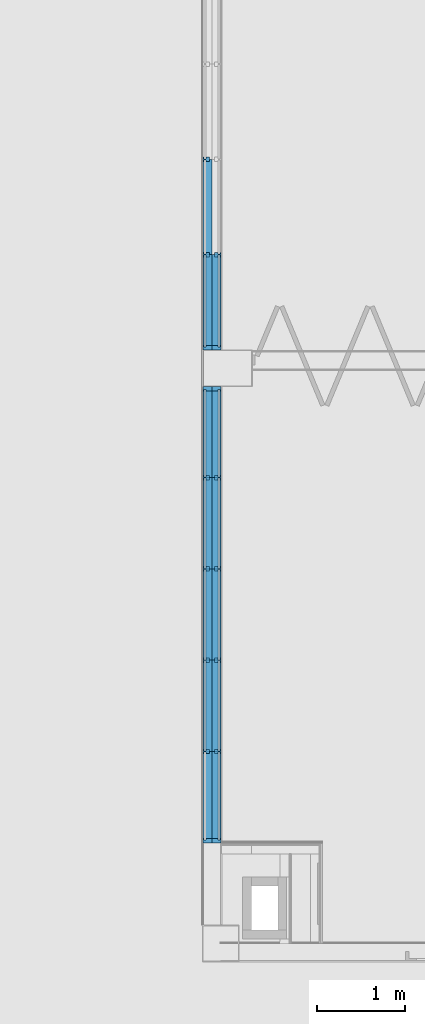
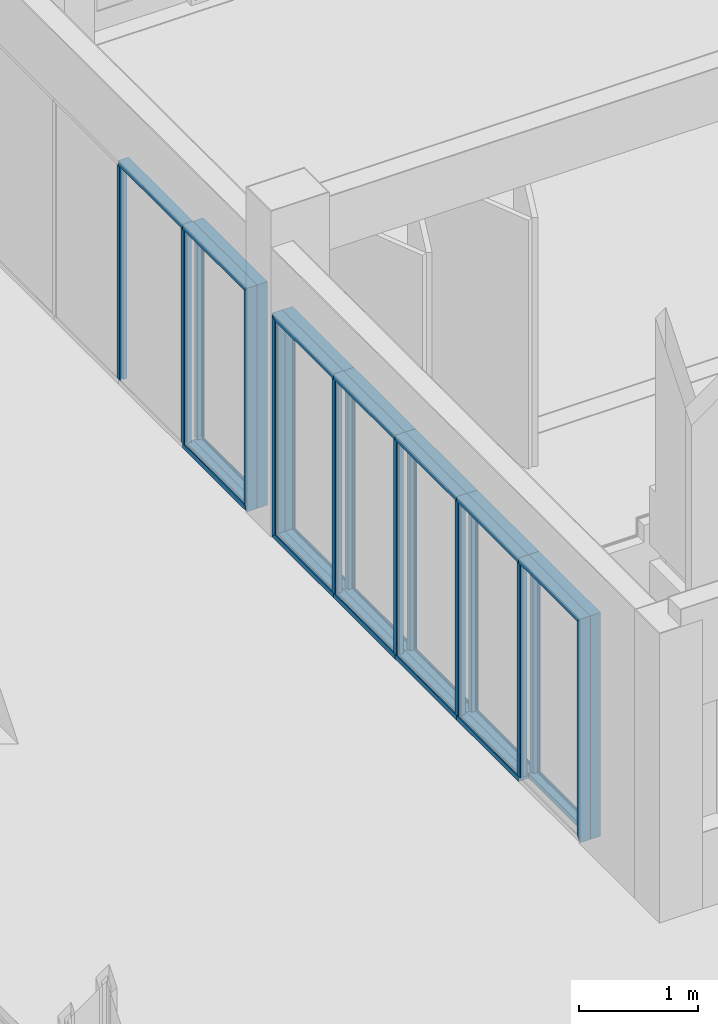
# One storey, part 2 of 139: 41 members, 4 elements without a shape of their own.
"""IFC2X3 building model written with IfcOpenShell, lengths in millimetres."""

from ifc_helpers import new_model, entity, si_unit, converted_unit, derived_unit, money_unit, direction, frame, origin_with_axes, place, context, subcontext, project, spatial, faceted_brep, source, transform, mapped, material, type_object, element, aggregate, save


model = new_model("IFC2X3")

# Units and contexts
model_context = context("Model", 3, precision=0.01, world=origin_with_axes(), true_north=direction((0.0, 1.0)))
body_context = subcontext(model_context, "Body", "Model", "MODEL_VIEW")
ifc_project = project(units=[si_unit("LENGTHUNIT", "METRE", prefix="MILLI"), si_unit("AREAUNIT", "SQUARE_METRE"), si_unit("VOLUMEUNIT", "CUBIC_METRE"), converted_unit("PLANEANGLEUNIT", "DEGREE", entity("IfcPlaneAngleMeasure", 0.0174532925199), si_unit("PLANEANGLEUNIT", "RADIAN"), dimensions=[0, 0, 0, 0, 0, 0, 0]), money_unit("EUR"), converted_unit("TIMEUNIT", "Year", entity("IfcTimeMeasure", 31556926.0), si_unit("TIMEUNIT", "SECOND"), dimensions=[0, 0, 1, 0, 0, 0, 0]), si_unit("MASSUNIT", "GRAM", prefix="KILO"), si_unit("THERMODYNAMICTEMPERATUREUNIT", "DEGREE_CELSIUS"), si_unit("LUMINOUSINTENSITYUNIT", "LUMEN"), si_unit("ENERGYUNIT", "JOULE", prefix="MEGA"), derived_unit("THERMALCONDUCTANCEUNIT", [(si_unit("POWERUNIT", "WATT"), 1), (si_unit("LENGTHUNIT", "METRE"), -1), (si_unit("THERMODYNAMICTEMPERATUREUNIT", "KELVIN"), -1)]), derived_unit("SPECIFICHEATCAPACITYUNIT", [(si_unit("ENERGYUNIT", "JOULE"), 1), (si_unit("MASSUNIT", "GRAM", prefix="KILO"), -1), (si_unit("THERMODYNAMICTEMPERATUREUNIT", "KELVIN"), -1)]), derived_unit("MASSDENSITYUNIT", [(si_unit("MASSUNIT", "GRAM", prefix="KILO"), 1), (si_unit("VOLUMEUNIT", "CUBIC_METRE"), -1)])], contexts=[model_context])

# Site, building, storey
site_placement = place(None, origin_with_axes())
site = spatial("IfcSite", under=ifc_project, at=site_placement, Name="Kolde pst 67a", CompositionType="ELEMENT")
building_placement = place(site_placement, origin_with_axes())
building = spatial("IfcBuilding", under=site, at=building_placement, Name="Riigigümnaasium", CompositionType="ELEMENT")
storey_placement = place(building_placement, frame((0.0, 0.0, 4600.0), z_axis=(0.0, 0.0, 1.0), x_axis=(1.0, 0.0, 0.0)))
storey = spatial("IfcBuildingStorey", under=building, at=storey_placement, Name="2. korrus", CompositionType="ELEMENT", Elevation=4600.0)

# Curtain wall, members
curtain_wall_type = type_object("IfcCurtainWallType", Name="Curtain Wall Type", PredefinedType="NOTDEFINED")
curtain_wall_1_placement = place(storey_placement, frame((58149.9590802, 13604.9614037, -2.92339397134e-05), z_axis=(0.0, 0.0, 1.0), x_axis=(1.0, 0.0, 0.0)))
curtain_wall_1 = element("IfcCurtainWall", 1, at=curtain_wall_1_placement, inside=storey, type_object=curtain_wall_type, Name="KLAASSEIN")
ifc_material = material(Name="_METALL - alumiinium")
member_type_1 = type_object("IfcMemberType", Name="Boundary Frame 50 x 100", PredefinedType="MEMBER")
shared_shape_1 = source(origin_with_axes(), body_context, "Body", "Brep", [
    faceted_brep([(-30.0, -10.0, 1040.0), (-50.0, -10.0, 1040.0), (-50.0, -80.0, 1040.0), (0.0, -80.0, 1040.0), (0.0, 20.0, 1040.0), (-50.0, 20.0, 1040.0), (-50.0, 10.0, 1040.0), (-30.0, 10.0, 1040.0), (-30.0, -10.0, 0.0), (-50.0, -10.0, 0.0), (-50.0, -80.0, 0.0), (0.0, -80.0, 0.0), (0.0, 20.0, 0.0), (-50.0, 20.0, 0.0), (-50.0, 10.0, 0.0), (-30.0, 10.0, 0.0)], [[[0, 1, 2, 3, 4, 5, 6, 7]], [[0, 8, 9, 1]], [[9, 10, 2, 1]], [[10, 11, 3, 2]], [[11, 12, 4, 3]], [[12, 13, 5, 4]], [[6, 5, 13, 14]], [[14, 15, 7, 6]], [[7, 15, 8, 0]], [[8, 15, 14, 13, 12, 11, 10, 9]]]),
])
member_1_placement = place(curtain_wall_1_placement, frame((0.00146719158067, -519.999999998, 0.0), z_axis=(-2.82152227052e-06, 0.999999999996, 0.0), x_axis=(0.0, 0.0, 1.0)))
member_1 = element("IfcMember", 2, at=member_1_placement, type_object=member_type_1, material=ifc_material, Name="RF RAAM SERV-657", ObjectType="MEMBER", context=body_context, shape_type="MappedRepresentation", body=[
    mapped(shared_shape_1, transform((0.0, 0.0, 0.0), x_axis=(-1.0, 0.0, 0.0), y_axis=(0.0, -1.0, 0.0), z_axis=(0.0, 0.0, 1.0))),
])
member_2_placement = place(curtain_wall_1_placement, frame((-0.00146719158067, 519.999999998, 0.0), z_axis=(-2.82152227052e-06, 0.999999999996, 0.0), x_axis=(0.0, 0.0, 1.0)))
member_2 = element("IfcMember", 3, at=member_2_placement, type_object=member_type_1, material=ifc_material, Name="RF RAAM SERV-658", ObjectType="MEMBER", context=body_context, shape_type="MappedRepresentation", body=[
    mapped(shared_shape_1, transform((0.0, 0.0, 0.0), x_axis=(-1.0, 0.0, 0.0), y_axis=(0.0, -1.0, 0.0), z_axis=(0.0, 0.0, 1.0))),
])
member_3_placement = place(curtain_wall_1_placement, frame((-0.00440157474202, 1559.99999999, 0.0), z_axis=(-2.82152227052e-06, 0.999999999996, 0.0), x_axis=(0.0, 0.0, 1.0)))
member_3 = element("IfcMember", 4, at=member_3_placement, type_object=member_type_1, material=ifc_material, Name="RF RAAM SERV-659", ObjectType="MEMBER", context=body_context, shape_type="MappedRepresentation", body=[
    mapped(shared_shape_1, transform((0.0, 0.0, 0.0), x_axis=(-1.0, 0.0, 0.0), y_axis=(0.0, -1.0, 0.0), z_axis=(0.0, 0.0, 1.0))),
])

curtain_wall_2_placement = place(storey_placement, frame((58309.9589479, 13604.961802, -0.000125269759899), z_axis=(0.0, 0.0, 1.0), x_axis=(1.0, 0.0, 0.0)))
curtain_wall_2 = element("IfcCurtainWall", 5, at=curtain_wall_2_placement, inside=storey, type_object=curtain_wall_type, Name="KLAASSEIN")
member_4_placement = place(curtain_wall_2_placement, frame((0.00151128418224, -519.999999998, 2300.00013518), z_axis=(-2.90631573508e-06, 0.999999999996, 0.0), x_axis=(0.0, 0.0, 1.0)))
member_4 = element("IfcMember", 6, at=member_4_placement, type_object=member_type_1, material=ifc_material, Name="RF RAAM SERV-655", ObjectType="MEMBER", context=body_context, shape_type="MappedRepresentation", body=[
    mapped(shared_shape_1, transform((0.0, 0.0, 0.0))),
])
member_5_placement = place(curtain_wall_2_placement, frame((-0.00151128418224, 519.999999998, 2300.00013518), z_axis=(-2.90631572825e-06, 0.999999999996, 0.0), x_axis=(0.0, 0.0, 1.0)))
member_5 = element("IfcMember", 7, at=member_5_placement, type_object=member_type_1, material=ifc_material, Name="RF RAAM SERV-654", ObjectType="MEMBER", context=body_context, shape_type="MappedRepresentation", body=[
    mapped(shared_shape_1, transform((0.0, 0.0, 0.0))),
])
member_6_placement = place(curtain_wall_2_placement, frame((-0.00453385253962, 1559.99999999, 2300.00013518), z_axis=(-2.90631573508e-06, 0.999999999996, 0.0), x_axis=(0.0, 0.0, 1.0)))
member_6 = element("IfcMember", 8, at=member_6_placement, type_object=member_type_1, material=ifc_material, Name="RF RAAM SERV-653", ObjectType="MEMBER", context=body_context, shape_type="MappedRepresentation", body=[
    mapped(shared_shape_1, transform((0.0, 0.0, 0.0))),
])
shared_shape_2 = source(origin_with_axes(), body_context, "Body", "Brep", [
    faceted_brep([(-30.0, -10.0, 1040.0), (-50.0, -10.0, 1040.0), (-50.0, -80.0, 1040.0), (0.0, -80.0, 1040.0), (0.0, 20.0, 1040.0), (-50.0, 20.0, 1040.0), (-50.0, 10.0, 1040.0), (-30.0, 10.0, 1040.0), (-30.0, -10.0, 30.0), (-50.0, -10.0, 50.0), (-50.0, -80.0, 50.0), (0.0, -80.0, 0.0), (0.0, 20.0, 0.0), (-50.0, 20.0, 50.0), (-50.0, 10.0, 50.0), (-30.0, 10.0, 30.0)], [[[0, 1, 2, 3, 4, 5, 6, 7]], [[0, 8, 9, 1]], [[9, 10, 2, 1]], [[2, 10, 11, 3]], [[3, 11, 12, 4]], [[4, 12, 13, 5]], [[6, 5, 13, 14]], [[14, 15, 7, 6]], [[7, 15, 8, 0]], [[8, 15, 14, 13, 12, 11, 10, 9]]]),
])
member_7_placement = place(curtain_wall_2_placement, frame((0.00453385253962, -1559.99999999, 2300.00013518), z_axis=(-2.90631572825e-06, 0.999999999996, 0.0), x_axis=(0.0, 0.0, 1.0)))
member_7 = element("IfcMember", 9, at=member_7_placement, type_object=member_type_1, material=ifc_material, Name="RF RAAM SERV-656", ObjectType="MEMBER", context=body_context, shape_type="MappedRepresentation", body=[
    mapped(shared_shape_2, transform((0.0, 0.0, 0.0))),
])

# Member
shared_shape_3 = source(origin_with_axes(), body_context, "Body", "Brep", [
    faceted_brep([(30.0, -10.0, 2270.0), (30.0, 10.0, 2270.0), (50.0, 10.0, 2250.0), (50.0, 20.0, 2250.0), (0.0, 20.0, 2300.0), (0.0, -80.0, 2300.0), (50.0, -80.0, 2250.0), (50.0, -10.0, 2250.0), (30.0, -10.0, 30.0), (30.0, 10.0, 30.0), (50.0, 10.0, 50.0), (50.0, 20.0, 50.0), (0.0, 20.0, 0.0), (0.0, -80.0, 0.0), (50.0, -80.0, 50.0), (50.0, -10.0, 50.0)], [[[0, 1, 2, 3, 4, 5, 6, 7]], [[1, 0, 8, 9]], [[10, 2, 1, 9]], [[2, 10, 11, 3]], [[4, 3, 11, 12]], [[5, 4, 12, 13]], [[6, 5, 13, 14]], [[15, 7, 6, 14]], [[0, 7, 15, 8]], [[8, 15, 14, 13, 12, 11, 10, 9]]]),
])
member_8_placement = place(curtain_wall_1_placement, frame((0.00440157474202, -1559.99999999, 0.0), z_axis=(0.0, 0.0, 1.0), x_axis=(2.82152227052e-06, -0.999999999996, 0.0)))
member_8 = element("IfcMember", 10, at=member_8_placement, type_object=member_type_1, material=ifc_material, Name="RF RAAM SERV-655", ObjectType="MEMBER", context=body_context, shape_type="MappedRepresentation", body=[
    mapped(shared_shape_3, transform((0.0, 0.0, 0.0), x_axis=(-1.0, 0.0, 0.0), y_axis=(0.0, -1.0, 0.0), z_axis=(0.0, 0.0, 1.0))),
])

# Curtain wall, member
curtain_wall_3_placement = place(storey_placement, frame((58149.948335, 21457.4999721, -5.87247752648e-05), z_axis=(0.0, 0.0, 1.0), x_axis=(1.0, 0.0, 0.0)))
curtain_wall_3 = element("IfcCurtainWall", 11, at=curtain_wall_3_placement, inside=storey, type_object=curtain_wall_type, Name="KLAASSEIN")
member_9_placement = place(curtain_wall_3_placement, frame((1.18417631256e-05, -3797.50006932, 0.0), z_axis=(0.0, 0.0, 1.0), x_axis=(-3.11830664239e-09, 1.0, 0.0)))
member_9 = element("IfcMember", 12, at=member_9_placement, type_object=member_type_1, material=ifc_material, Name="RF RAAM SERV-666", ObjectType="MEMBER", context=body_context, shape_type="MappedRepresentation", body=[
    mapped(shared_shape_3, transform((0.0, 0.0, 0.0))),
])

# Member
member_10_placement = place(curtain_wall_2_placement, frame((-0.0105645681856, 3635.03802182, 0.0), z_axis=(0.0, 0.0, 1.0), x_axis=(2.90631572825e-06, -0.999999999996, 0.0)))
member_10 = element("IfcMember", 13, at=member_10_placement, type_object=member_type_1, material=ifc_material, Name="RF RAAM SERV-651", ObjectType="MEMBER", context=body_context, shape_type="MappedRepresentation", body=[
    mapped(shared_shape_3, transform((0.0, 0.0, 0.0))),
])

member_type_2 = type_object("IfcMemberType", Name="Mullion Frame 50 x 70", PredefinedType="MEMBER")
shared_shape_4 = source(origin_with_axes(), body_context, "Body", "Brep", [
    faceted_brep([(5.0, -10.0, 2250.00004495), (5.0, 10.0, 2250.00004495), (25.0, 10.0, 2250.00004495), (25.0, 20.0, 2250.00004495), (-25.0, 20.0, 2250.00004495), (-25.0, 10.0, 2250.00004495), (-5.0, 10.0, 2250.00004495), (-5.0, -10.0, 2250.00004495), (-25.0, -10.0, 2250.00004495), (-25.0, -50.0, 2250.00004495), (25.0, -50.0, 2250.00004495), (25.0, -10.0, 2250.00004495), (5.0, -10.0, 50.0), (5.0, 10.0, 50.0), (25.0, 10.0, 50.0), (25.0, 20.0, 50.0), (-25.0, 20.0, 50.0), (-25.0, 10.0, 50.0), (-5.0, 10.0, 50.0), (-5.0, -10.0, 50.0), (-25.0, -10.0, 50.0), (-25.0, -50.0, 50.0), (25.0, -50.0, 50.0), (25.0, -10.0, 50.0)], [[[0, 1, 2, 3, 4, 5, 6, 7, 8, 9, 10, 11]], [[0, 12, 13, 1]], [[1, 13, 14, 2]], [[14, 15, 3, 2]], [[4, 3, 15, 16]], [[17, 5, 4, 16]], [[5, 17, 18, 6]], [[7, 6, 18, 19]], [[8, 7, 19, 20]], [[8, 20, 21, 9]], [[10, 9, 21, 22]], [[11, 10, 22, 23]], [[11, 23, 12, 0]], [[13, 12, 23, 22, 21, 20, 19, 18, 17, 16, 15, 14]]]),
])
member_11_placement = place(curtain_wall_1_placement, frame((0.00146719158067, -519.999999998, 0.0), z_axis=(0.0, 0.0, 1.0), x_axis=(2.82152227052e-06, -0.999999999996, 0.0)))
member_11 = element("IfcMember", 14, at=member_11_placement, type_object=member_type_2, material=ifc_material, Name="RF RAAM VERT-268", ObjectType="MEMBER", context=body_context, shape_type="MappedRepresentation", body=[
    mapped(shared_shape_4, transform((0.0, 0.0, 0.0), x_axis=(-1.0, 0.0, 0.0), y_axis=(0.0, -1.0, 0.0), z_axis=(0.0, 0.0, 1.0))),
])

member_12_placement = place(curtain_wall_1_placement, frame((-0.00146719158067, 519.999999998, 0.0), z_axis=(0.0, 0.0, 1.0), x_axis=(2.82152227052e-06, -0.999999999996, 0.0)))
member_12 = element("IfcMember", 15, at=member_12_placement, type_object=member_type_2, material=ifc_material, Name="RF RAAM VERT-269", ObjectType="MEMBER", context=body_context, shape_type="MappedRepresentation", body=[
    mapped(shared_shape_4, transform((0.0, 0.0, 0.0), x_axis=(-1.0, 0.0, 0.0), y_axis=(0.0, -1.0, 0.0), z_axis=(0.0, 0.0, 1.0))),
])

member_13_placement = place(curtain_wall_1_placement, frame((-0.00440157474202, 1559.99999999, 0.0), z_axis=(0.0, 0.0, 1.0), x_axis=(2.82152227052e-06, -0.999999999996, 0.0)))
member_13 = element("IfcMember", 16, at=member_13_placement, type_object=member_type_2, material=ifc_material, Name="RF RAAM VERT-270", ObjectType="MEMBER", context=body_context, shape_type="MappedRepresentation", body=[
    mapped(shared_shape_4, transform((0.0, 0.0, 0.0), x_axis=(-1.0, 0.0, 0.0), y_axis=(0.0, -1.0, 0.0), z_axis=(0.0, 0.0, 1.0))),
])

member_14_placement = place(curtain_wall_1_placement, frame((-0.00733595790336, 2599.99999999, 0.0), z_axis=(0.0, 0.0, 1.0), x_axis=(2.82152227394e-06, -0.999999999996, 0.0)))
member_14 = element("IfcMember", 17, at=member_14_placement, type_object=member_type_2, material=ifc_material, Name="RF RAAM VERT-277", ObjectType="MEMBER", context=body_context, shape_type="MappedRepresentation", body=[
    mapped(shared_shape_4, transform((0.0, 0.0, 0.0), x_axis=(-1.0, 0.0, 0.0), y_axis=(0.0, -1.0, 0.0), z_axis=(0.0, 0.0, 1.0))),
])

# Curtain wall, member
curtain_wall_4_placement = place(storey_placement, frame((58309.948762, 21457.499953, -9.60191526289e-05), z_axis=(0.0, 0.0, 1.0), x_axis=(1.0, 0.0, 0.0)))
curtain_wall_4 = element("IfcCurtainWall", 18, at=curtain_wall_4_placement, inside=storey, type_object=curtain_wall_type, Name="KLAASSEIN")
member_15_placement = place(curtain_wall_4_placement, frame((-0.000296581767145, -2712.5, 0.0), z_axis=(0.0, 0.0, 1.0), x_axis=(1.09338902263e-07, 1.0, 0.0)))
member_15 = element("IfcMember", 19, at=member_15_placement, type_object=member_type_2, material=ifc_material, Name="RF RAAM VERT-317", ObjectType="MEMBER", context=body_context, shape_type="MappedRepresentation", body=[
    mapped(shared_shape_4, transform((0.0, 0.0, 0.0), x_axis=(-1.0, 0.0, 0.0), y_axis=(0.0, -1.0, 0.0), z_axis=(0.0, 0.0, 1.0))),
])

# Member
shared_shape_5 = source(origin_with_axes(), body_context, "Body", "Brep", [
    faceted_brep([(30.0, -10.0, 1040.0), (30.0, 10.0, 1040.0), (50.0, 10.0, 1040.0), (50.0, 20.0, 1040.0), (0.0, 20.0, 1040.0), (0.0, -80.0, 1040.0), (50.0, -80.0, 1040.0), (50.0, -10.0, 1040.0), (30.0, -10.0, 30.0), (30.0, 10.0, 30.0), (50.0, 10.0, 50.0), (50.0, 20.0, 50.0), (0.0, 20.0, 0.0), (0.0, -80.0, 0.0), (50.0, -80.0, 50.0), (50.0, -10.0, 50.0)], [[[0, 1, 2, 3, 4, 5, 6, 7]], [[1, 0, 8, 9]], [[10, 2, 1, 9]], [[2, 10, 11, 3]], [[4, 3, 11, 12]], [[5, 4, 12, 13]], [[6, 5, 13, 14]], [[15, 7, 6, 14]], [[0, 7, 15, 8]], [[8, 15, 14, 13, 12, 11, 10, 9]]]),
])
member_16_placement = place(curtain_wall_1_placement, frame((0.00440157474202, -1559.99999999, 2300.00004495), z_axis=(-2.82152227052e-06, 0.999999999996, 0.0), x_axis=(0.0, 0.0, 1.0)))
member_16 = element("IfcMember", 20, at=member_16_placement, type_object=member_type_1, material=ifc_material, Name="RF RAAM SERV-666", ObjectType="MEMBER", context=body_context, shape_type="MappedRepresentation", body=[
    mapped(shared_shape_5, transform((0.0, 0.0, 0.0), x_axis=(-1.0, 0.0, 0.0), y_axis=(0.0, -1.0, 0.0), z_axis=(0.0, 0.0, 1.0))),
])

member_17_placement = place(curtain_wall_2_placement, frame((0.00453385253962, -1559.99999999, 0.0), z_axis=(-2.90631572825e-06, 0.999999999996, 0.0), x_axis=(0.0, 0.0, 1.0)))
member_17 = element("IfcMember", 21, at=member_17_placement, type_object=member_type_1, material=ifc_material, Name="RF RAAM SERV-646", ObjectType="MEMBER", context=body_context, shape_type="MappedRepresentation", body=[
    mapped(shared_shape_5, transform((0.0, 0.0, 0.0))),
])

shared_shape_6 = source(origin_with_axes(), body_context, "Body", "Brep", [
    faceted_brep([(30.0, -10.0, 1040.0), (30.0, 10.0, 1040.0), (50.0, 10.0, 1040.0), (50.0, 20.0, 1040.0), (0.0, 20.0, 1040.0), (0.0, -80.0, 1040.0), (50.0, -80.0, 1040.0), (50.0, -10.0, 1040.0), (30.0, -10.0, 0.0), (30.0, 10.0, 0.0), (50.0, 10.0, 0.0), (50.0, 20.0, 0.0), (0.0, 20.0, 0.0), (0.0, -80.0, 0.0), (50.0, -80.0, 0.0), (50.0, -10.0, 0.0)], [[[0, 1, 2, 3, 4, 5, 6, 7]], [[1, 0, 8, 9]], [[10, 2, 1, 9]], [[2, 10, 11, 3]], [[12, 4, 3, 11]], [[13, 5, 4, 12]], [[14, 6, 5, 13]], [[15, 7, 6, 14]], [[0, 7, 15, 8]], [[8, 15, 14, 13, 12, 11, 10, 9]]]),
])
member_18_placement = place(curtain_wall_1_placement, frame((0.00146719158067, -519.999999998, 2300.00004495), z_axis=(-2.82152227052e-06, 0.999999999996, 0.0), x_axis=(0.0, 0.0, 1.0)))
member_18 = element("IfcMember", 22, at=member_18_placement, type_object=member_type_1, material=ifc_material, Name="RF RAAM SERV-665", ObjectType="MEMBER", context=body_context, shape_type="MappedRepresentation", body=[
    mapped(shared_shape_6, transform((0.0, 0.0, 0.0), x_axis=(-1.0, 0.0, 0.0), y_axis=(0.0, -1.0, 0.0), z_axis=(0.0, 0.0, 1.0))),
])

member_19_placement = place(curtain_wall_1_placement, frame((-0.00146719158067, 519.999999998, 2300.00004495), z_axis=(-2.82152227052e-06, 0.999999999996, 0.0), x_axis=(0.0, 0.0, 1.0)))
member_19 = element("IfcMember", 23, at=member_19_placement, type_object=member_type_1, material=ifc_material, Name="RF RAAM SERV-664", ObjectType="MEMBER", context=body_context, shape_type="MappedRepresentation", body=[
    mapped(shared_shape_6, transform((0.0, 0.0, 0.0), x_axis=(-1.0, 0.0, 0.0), y_axis=(0.0, -1.0, 0.0), z_axis=(0.0, 0.0, 1.0))),
])

member_20_placement = place(curtain_wall_1_placement, frame((-0.00440157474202, 1559.99999999, 2300.00004495), z_axis=(-2.82152227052e-06, 0.999999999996, 0.0), x_axis=(0.0, 0.0, 1.0)))
member_20 = element("IfcMember", 24, at=member_20_placement, type_object=member_type_1, material=ifc_material, Name="RF RAAM SERV-663", ObjectType="MEMBER", context=body_context, shape_type="MappedRepresentation", body=[
    mapped(shared_shape_6, transform((0.0, 0.0, 0.0), x_axis=(-1.0, 0.0, 0.0), y_axis=(0.0, -1.0, 0.0), z_axis=(0.0, 0.0, 1.0))),
])

member_21_placement = place(curtain_wall_2_placement, frame((0.00151128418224, -519.999999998, 0.0), z_axis=(-2.90631573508e-06, 0.999999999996, 0.0), x_axis=(0.0, 0.0, 1.0)))
member_21 = element("IfcMember", 25, at=member_21_placement, type_object=member_type_1, material=ifc_material, Name="RF RAAM SERV-647", ObjectType="MEMBER", context=body_context, shape_type="MappedRepresentation", body=[
    mapped(shared_shape_6, transform((0.0, 0.0, 0.0))),
])

member_22_placement = place(curtain_wall_2_placement, frame((-0.00151128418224, 519.999999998, 0.0), z_axis=(-2.90631572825e-06, 0.999999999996, 0.0), x_axis=(0.0, 0.0, 1.0)))
member_22 = element("IfcMember", 26, at=member_22_placement, type_object=member_type_1, material=ifc_material, Name="RF RAAM SERV-648", ObjectType="MEMBER", context=body_context, shape_type="MappedRepresentation", body=[
    mapped(shared_shape_6, transform((0.0, 0.0, 0.0))),
])

member_23_placement = place(curtain_wall_2_placement, frame((-0.00453385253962, 1559.99999999, 0.0), z_axis=(-2.90631573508e-06, 0.999999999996, 0.0), x_axis=(0.0, 0.0, 1.0)))
member_23 = element("IfcMember", 27, at=member_23_placement, type_object=member_type_1, material=ifc_material, Name="RF RAAM SERV-649", ObjectType="MEMBER", context=body_context, shape_type="MappedRepresentation", body=[
    mapped(shared_shape_6, transform((0.0, 0.0, 0.0))),
])

shared_shape_7 = source(origin_with_axes(), body_context, "Body", "Brep", [
    faceted_brep([(30.0, -10.0, 1005.03802183), (30.0, 10.0, 1005.03802183), (50.0, 10.0, 985.038021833), (50.0, 20.0, 985.038021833), (0.0, 20.0, 1035.03802183), (0.0, -80.0, 1035.03802183), (50.0, -80.0, 985.038021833), (50.0, -10.0, 985.038021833), (30.0, -10.0, 0.0), (30.0, 10.0, 0.0), (50.0, 10.0, 0.0), (50.0, 20.0, 0.0), (0.0, 20.0, 0.0), (0.0, -80.0, 0.0), (50.0, -80.0, 0.0), (50.0, -10.0, 0.0)], [[[0, 1, 2, 3, 4, 5, 6, 7]], [[1, 0, 8, 9]], [[10, 2, 1, 9]], [[2, 10, 11, 3]], [[12, 4, 3, 11]], [[13, 5, 4, 12]], [[14, 6, 5, 13]], [[15, 7, 6, 14]], [[0, 7, 15, 8]], [[8, 15, 14, 13, 12, 11, 10, 9]]]),
])
member_24_placement = place(curtain_wall_1_placement, frame((-0.00733595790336, 2599.99999999, 2300.00004495), z_axis=(-2.82152227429e-06, 0.999999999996, 0.0), x_axis=(0.0, 0.0, 1.0)))
member_24 = element("IfcMember", 28, at=member_24_placement, type_object=member_type_1, material=ifc_material, Name="RF RAAM SERV-662", ObjectType="MEMBER", context=body_context, shape_type="MappedRepresentation", body=[
    mapped(shared_shape_7, transform((0.0, 0.0, 0.0), x_axis=(-1.0, 0.0, 0.0), y_axis=(0.0, -1.0, 0.0), z_axis=(0.0, 0.0, 1.0))),
])

member_25_placement = place(curtain_wall_2_placement, frame((-0.00755642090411, 2599.99999999, 0.0), z_axis=(-2.90631572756e-06, 0.999999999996, 0.0), x_axis=(0.0, 0.0, 1.0)))
member_25 = element("IfcMember", 29, at=member_25_placement, type_object=member_type_1, material=ifc_material, Name="RF RAAM SERV-650", ObjectType="MEMBER", context=body_context, shape_type="MappedRepresentation", body=[
    mapped(shared_shape_7, transform((0.0, 0.0, 0.0))),
])

shared_shape_8 = source(origin_with_axes(), body_context, "Body", "Brep", [
    faceted_brep([(-30.0, -10.0, 2270.00004495), (-50.0, -10.0, 2250.00004495), (-50.0, -80.0, 2250.00004495), (0.0, -80.0, 2300.00004495), (0.0, 20.0, 2300.00004495), (-50.0, 20.0, 2250.00004495), (-50.0, 10.0, 2250.00004495), (-30.0, 10.0, 2270.00004495), (-30.0, -10.0, 30.0), (-50.0, -10.0, 50.0), (-50.0, -80.0, 50.0), (0.0, -80.0, 0.0), (0.0, 20.0, 0.0), (-50.0, 20.0, 50.0), (-50.0, 10.0, 50.0), (-30.0, 10.0, 30.0)], [[[0, 1, 2, 3, 4, 5, 6, 7]], [[0, 8, 9, 1]], [[9, 10, 2, 1]], [[2, 10, 11, 3]], [[3, 11, 12, 4]], [[4, 12, 13, 5]], [[6, 5, 13, 14]], [[14, 15, 7, 6]], [[7, 15, 8, 0]], [[8, 15, 14, 13, 12, 11, 10, 9]]]),
])
member_26_placement = place(curtain_wall_1_placement, frame((-0.0102563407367, 3635.03802182, 0.0), z_axis=(0.0, 0.0, 1.0), x_axis=(2.82152227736e-06, -0.999999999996, 0.0)))
member_26 = element("IfcMember", 30, at=member_26_placement, type_object=member_type_1, material=ifc_material, Name="RF RAAM SERV-661", ObjectType="MEMBER", context=body_context, shape_type="MappedRepresentation", body=[
    mapped(shared_shape_8, transform((0.0, 0.0, 0.0), x_axis=(-1.0, 0.0, 0.0), y_axis=(0.0, -1.0, 0.0), z_axis=(0.0, 0.0, 1.0))),
])

member_27_placement = place(curtain_wall_4_placement, frame((-0.000415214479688, -3797.50000062, 0.0), z_axis=(0.0, 0.0, 1.0), x_axis=(1.09338905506e-07, 1.0, 0.0)))
member_27 = element("IfcMember", 31, at=member_27_placement, type_object=member_type_1, material=ifc_material, Name="RF RAAM SERV-716", ObjectType="MEMBER", context=body_context, shape_type="MappedRepresentation", body=[
    mapped(shared_shape_8, transform((0.0, 0.0, 0.0), x_axis=(-1.0, 0.0, 0.0), y_axis=(0.0, -1.0, 0.0), z_axis=(0.0, 0.0, 1.0))),
])

member_28_placement = place(curtain_wall_2_placement, frame((0.00453385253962, -1559.99999999, 0.0), z_axis=(0.0, 0.0, 1.0), x_axis=(2.90631572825e-06, -0.999999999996, 0.0)))
member_28 = element("IfcMember", 32, at=member_28_placement, type_object=member_type_1, material=ifc_material, Name="RF RAAM SERV-645", ObjectType="MEMBER", context=body_context, shape_type="MappedRepresentation", body=[
    mapped(shared_shape_8, transform((0.0, 0.0, 0.0))),
])

shared_shape_9 = source(origin_with_axes(), body_context, "Body", "Brep", [
    faceted_brep([(-30.0, -10.0, 1005.03802183), (-50.0, -10.0, 985.038021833), (-50.0, -80.0, 985.038021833), (0.0, -80.0, 1035.03802183), (0.0, 20.0, 1035.03802183), (-50.0, 20.0, 985.038021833), (-50.0, 10.0, 985.038021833), (-30.0, 10.0, 1005.03802183), (-30.0, -10.0, 0.0), (-50.0, -10.0, 0.0), (-50.0, -80.0, 0.0), (0.0, -80.0, 0.0), (0.0, 20.0, 0.0), (-50.0, 20.0, 0.0), (-50.0, 10.0, 0.0), (-30.0, 10.0, 0.0)], [[[0, 1, 2, 3, 4, 5, 6, 7]], [[0, 8, 9, 1]], [[9, 10, 2, 1]], [[10, 11, 3, 2]], [[11, 12, 4, 3]], [[12, 13, 5, 4]], [[6, 5, 13, 14]], [[14, 15, 7, 6]], [[7, 15, 8, 0]], [[8, 15, 14, 13, 12, 11, 10, 9]]]),
])
member_29_placement = place(curtain_wall_1_placement, frame((-0.00733595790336, 2599.99999999, 0.0), z_axis=(-2.82152227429e-06, 0.999999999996, 0.0), x_axis=(0.0, 0.0, 1.0)))
member_29 = element("IfcMember", 33, at=member_29_placement, type_object=member_type_1, material=ifc_material, Name="RF RAAM SERV-660", ObjectType="MEMBER", context=body_context, shape_type="MappedRepresentation", body=[
    mapped(shared_shape_9, transform((0.0, 0.0, 0.0), x_axis=(-1.0, 0.0, 0.0), y_axis=(0.0, -1.0, 0.0), z_axis=(0.0, 0.0, 1.0))),
])

aggregate(curtain_wall_1, [member_1, member_2, member_8, member_11, member_12, member_13, member_16, member_18, member_19, member_20, member_3, member_14, member_24, member_26, member_29])

member_30_placement = place(curtain_wall_2_placement, frame((-0.00755642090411, 2599.99999999, 2300.00013518), z_axis=(-2.90631572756e-06, 0.999999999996, 0.0), x_axis=(0.0, 0.0, 1.0)))
member_30 = element("IfcMember", 34, at=member_30_placement, type_object=member_type_1, material=ifc_material, Name="RF RAAM SERV-652", ObjectType="MEMBER", context=body_context, shape_type="MappedRepresentation", body=[
    mapped(shared_shape_9, transform((0.0, 0.0, 0.0))),
])

shared_shape_10 = source(origin_with_axes(), body_context, "Body", "Brep", [
    faceted_brep([(-5.0, -10.0, 2250.0), (-25.0, -10.0, 2250.0), (-25.0, -50.0, 2250.0), (25.0, -50.0, 2250.0), (25.0, -10.0, 2250.0), (5.0, -10.0, 2250.0), (5.0, 10.0, 2250.0), (25.0, 10.0, 2250.0), (25.0, 20.0, 2250.0), (-25.0, 20.0, 2250.0), (-25.0, 10.0, 2250.0), (-5.0, 10.0, 2250.0), (-5.0, -10.0, 50.0), (-25.0, -10.0, 50.0), (-25.0, -50.0, 50.0), (25.0, -50.0, 50.0), (25.0, -10.0, 50.0), (5.0, -10.0, 50.0), (5.0, 10.0, 50.0), (25.0, 10.0, 50.0), (25.0, 20.0, 50.0), (-25.0, 20.0, 50.0), (-25.0, 10.0, 50.0), (-5.0, 10.0, 50.0)], [[[0, 1, 2, 3, 4, 5, 6, 7, 8, 9, 10, 11]], [[1, 0, 12, 13]], [[1, 13, 14, 2]], [[2, 14, 15, 3]], [[4, 3, 15, 16]], [[4, 16, 17, 5]], [[5, 17, 18, 6]], [[7, 6, 18, 19]], [[19, 20, 8, 7]], [[8, 20, 21, 9]], [[22, 10, 9, 21]], [[11, 10, 22, 23]], [[0, 11, 23, 12]], [[23, 22, 21, 20, 19, 18, 17, 16, 15, 14, 13, 12]]]),
])
member_31_placement = place(curtain_wall_3_placement, frame((5.07504438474e-06, -1627.5, 0.0), z_axis=(0.0, 0.0, 1.0), x_axis=(-3.11830356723e-09, 1.0, 0.0)))
member_31 = element("IfcMember", 35, at=member_31_placement, type_object=member_type_2, material=ifc_material, Name="RF RAAM VERT-284", ObjectType="MEMBER", context=body_context, shape_type="MappedRepresentation", body=[
    mapped(shared_shape_10, transform((0.0, 0.0, 0.0))),
])

member_32_placement = place(curtain_wall_3_placement, frame((8.45840020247e-06, -2712.5, 0.0), z_axis=(0.0, 0.0, 1.0), x_axis=(-3.11830346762e-09, 1.0, 0.0)))
member_32 = element("IfcMember", 36, at=member_32_placement, type_object=member_type_2, material=ifc_material, Name="RF RAAM VERT-293", ObjectType="MEMBER", context=body_context, shape_type="MappedRepresentation", body=[
    mapped(shared_shape_10, transform((0.0, 0.0, 0.0))),
])

member_33_placement = place(curtain_wall_2_placement, frame((0.00151128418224, -519.999999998, 0.0), z_axis=(0.0, 0.0, 1.0), x_axis=(2.90631573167e-06, -0.999999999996, 0.0)))
member_33 = element("IfcMember", 37, at=member_33_placement, type_object=member_type_2, material=ifc_material, Name="RF RAAM VERT-267", ObjectType="MEMBER", context=body_context, shape_type="MappedRepresentation", body=[
    mapped(shared_shape_10, transform((0.0, 0.0, 0.0))),
])

member_34_placement = place(curtain_wall_2_placement, frame((-0.00151128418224, 519.999999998, 0.0), z_axis=(0.0, 0.0, 1.0), x_axis=(2.90631573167e-06, -0.999999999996, 0.0)))
member_34 = element("IfcMember", 38, at=member_34_placement, type_object=member_type_2, material=ifc_material, Name="RF RAAM VERT-268", ObjectType="MEMBER", context=body_context, shape_type="MappedRepresentation", body=[
    mapped(shared_shape_10, transform((0.0, 0.0, 0.0))),
])

member_35_placement = place(curtain_wall_2_placement, frame((-0.00453385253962, 1559.99999999, 0.0), z_axis=(0.0, 0.0, 1.0), x_axis=(2.90631573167e-06, -0.999999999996, 0.0)))
member_35 = element("IfcMember", 39, at=member_35_placement, type_object=member_type_2, material=ifc_material, Name="RF RAAM VERT-269", ObjectType="MEMBER", context=body_context, shape_type="MappedRepresentation", body=[
    mapped(shared_shape_10, transform((0.0, 0.0, 0.0))),
])

member_36_placement = place(curtain_wall_2_placement, frame((-0.00755642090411, 2599.99999999, 0.0), z_axis=(0.0, 0.0, 1.0), x_axis=(2.90631573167e-06, -0.999999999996, 0.0)))
member_36 = element("IfcMember", 40, at=member_36_placement, type_object=member_type_2, material=ifc_material, Name="RF RAAM VERT-276", ObjectType="MEMBER", context=body_context, shape_type="MappedRepresentation", body=[
    mapped(shared_shape_10, transform((0.0, 0.0, 0.0))),
])

aggregate(curtain_wall_2, [member_21, member_22, member_17, member_28, member_33, member_34, member_35, member_7, member_4, member_5, member_6, member_23, member_36, member_30, member_10, member_25])

shared_shape_11 = source(origin_with_axes(), body_context, "Body", "Brep", [
    faceted_brep([(-30.0, -10.0, 1085.0), (-50.0, -10.0, 1085.0), (-50.0, -80.0, 1085.0), (0.0, -80.0, 1085.0), (0.0, 20.0, 1085.0), (-50.0, 20.0, 1085.0), (-50.0, 10.0, 1085.0), (-30.0, 10.0, 1085.0), (-30.0, -10.0, 0.0), (-50.0, -10.0, 0.0), (-50.0, -80.0, 0.0), (0.0, -80.0, 0.0), (0.0, 20.0, 0.0), (-50.0, 20.0, 0.0), (-50.0, 10.0, 0.0), (-30.0, 10.0, 0.0)], [[[0, 1, 2, 3, 4, 5, 6, 7]], [[0, 8, 9, 1]], [[9, 10, 2, 1]], [[10, 11, 3, 2]], [[11, 12, 4, 3]], [[12, 13, 5, 4]], [[6, 5, 13, 14]], [[14, 15, 7, 6]], [[7, 15, 8, 0]], [[8, 15, 14, 13, 12, 11, 10, 9]]]),
])
member_37_placement = place(curtain_wall_3_placement, frame((5.07504438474e-06, -1627.5, 2300.00014663), z_axis=(3.11830029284e-09, -1.0, 0.0), x_axis=(0.0, 0.0, 1.0)))
member_37 = element("IfcMember", 41, at=member_37_placement, type_object=member_type_1, material=ifc_material, Name="RF RAAM SERV-668", ObjectType="MEMBER", context=body_context, shape_type="MappedRepresentation", body=[
    mapped(shared_shape_11, transform((0.0, 0.0, 0.0))),
])

shared_shape_12 = source(origin_with_axes(), body_context, "Body", "Brep", [
    faceted_brep([(30.0, -10.0, 1055.00006932), (30.0, 10.0, 1055.00006932), (50.0, 10.0, 1035.00006932), (50.0, 20.0, 1035.00006932), (0.0, 20.0, 1085.00006932), (0.0, -80.0, 1085.00006932), (50.0, -80.0, 1035.00006932), (50.0, -10.0, 1035.00006932), (30.0, -10.0, 0.0), (30.0, 10.0, 0.0), (50.0, 10.0, 0.0), (50.0, 20.0, 0.0), (0.0, 20.0, 0.0), (0.0, -80.0, 0.0), (50.0, -80.0, 0.0), (50.0, -10.0, 0.0)], [[[0, 1, 2, 3, 4, 5, 6, 7]], [[1, 0, 8, 9]], [[10, 2, 1, 9]], [[2, 10, 11, 3]], [[12, 4, 3, 11]], [[13, 5, 4, 12]], [[14, 6, 5, 13]], [[15, 7, 6, 14]], [[0, 7, 15, 8]], [[8, 15, 14, 13, 12, 11, 10, 9]]]),
])
member_38_placement = place(curtain_wall_3_placement, frame((8.45840020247e-06, -2712.5, 0.0), z_axis=(3.11830664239e-09, -1.0, 0.0), x_axis=(0.0, 0.0, 1.0)))
member_38 = element("IfcMember", 42, at=member_38_placement, type_object=member_type_1, material=ifc_material, Name="RF RAAM SERV-665", ObjectType="MEMBER", context=body_context, shape_type="MappedRepresentation", body=[
    mapped(shared_shape_12, transform((0.0, 0.0, 0.0))),
])

member_39_placement = place(curtain_wall_4_placement, frame((-0.000296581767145, -2712.5, 2300.00014663), z_axis=(-1.09338905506e-07, -1.0, 0.0), x_axis=(0.0, 0.0, 1.0)))
member_39 = element("IfcMember", 43, at=member_39_placement, type_object=member_type_1, material=ifc_material, Name="RF RAAM SERV-717", ObjectType="MEMBER", context=body_context, shape_type="MappedRepresentation", body=[
    mapped(shared_shape_12, transform((0.0, 0.0, 0.0), x_axis=(-1.0, 0.0, 0.0), y_axis=(0.0, -1.0, -1.09338905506e-07), z_axis=(0.0, -1.09338905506e-07, 1.0))),
])

shared_shape_13 = source(origin_with_axes(), body_context, "Body", "Brep", [
    faceted_brep([(-30.0, -10.0, 1055.00006932), (-50.0, -10.0, 1035.00006932), (-50.0, -80.0, 1035.00006932), (0.0, -80.0, 1085.00006932), (0.0, 20.0, 1085.00006932), (-50.0, 20.0, 1035.00006932), (-50.0, 10.0, 1035.00006932), (-30.0, 10.0, 1055.00006932), (-30.0, -10.0, 0.0), (-50.0, -10.0, 0.0), (-50.0, -80.0, 0.0), (0.0, -80.0, 0.0), (0.0, 20.0, 0.0), (-50.0, 20.0, 0.0), (-50.0, 10.0, 0.0), (-30.0, 10.0, 0.0)], [[[0, 1, 2, 3, 4, 5, 6, 7]], [[0, 8, 9, 1]], [[9, 10, 2, 1]], [[10, 11, 3, 2]], [[11, 12, 4, 3]], [[12, 13, 5, 4]], [[6, 5, 13, 14]], [[14, 15, 7, 6]], [[7, 15, 8, 0]], [[8, 15, 14, 13, 12, 11, 10, 9]]]),
])
member_40_placement = place(curtain_wall_3_placement, frame((8.45840020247e-06, -2712.5, 2300.00014663), z_axis=(3.11830664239e-09, -1.0, 0.0), x_axis=(0.0, 0.0, 1.0)))
member_40 = element("IfcMember", 44, at=member_40_placement, type_object=member_type_1, material=ifc_material, Name="RF RAAM SERV-667", ObjectType="MEMBER", context=body_context, shape_type="MappedRepresentation", body=[
    mapped(shared_shape_13, transform((0.0, 0.0, 0.0))),
])

aggregate(curtain_wall_3, [member_31, member_37, member_32, member_9, member_38, member_40])

member_41_placement = place(curtain_wall_4_placement, frame((-0.000296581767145, -2712.5, 0.0), z_axis=(-1.09338905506e-07, -1.0, 0.0), x_axis=(0.0, 0.0, 1.0)))
member_41 = element("IfcMember", 45, at=member_41_placement, type_object=member_type_1, material=ifc_material, Name="RF RAAM SERV-715", ObjectType="MEMBER", context=body_context, shape_type="MappedRepresentation", body=[
    mapped(shared_shape_13, transform((0.0, 0.0, 0.0), x_axis=(-1.0, 0.0, 0.0), y_axis=(0.0, -1.0, -1.09338905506e-07), z_axis=(0.0, -1.09338905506e-07, 1.0))),
])

aggregate(curtain_wall_4, [member_15, member_27, member_41, member_39])

save(model, "model.ifc")
